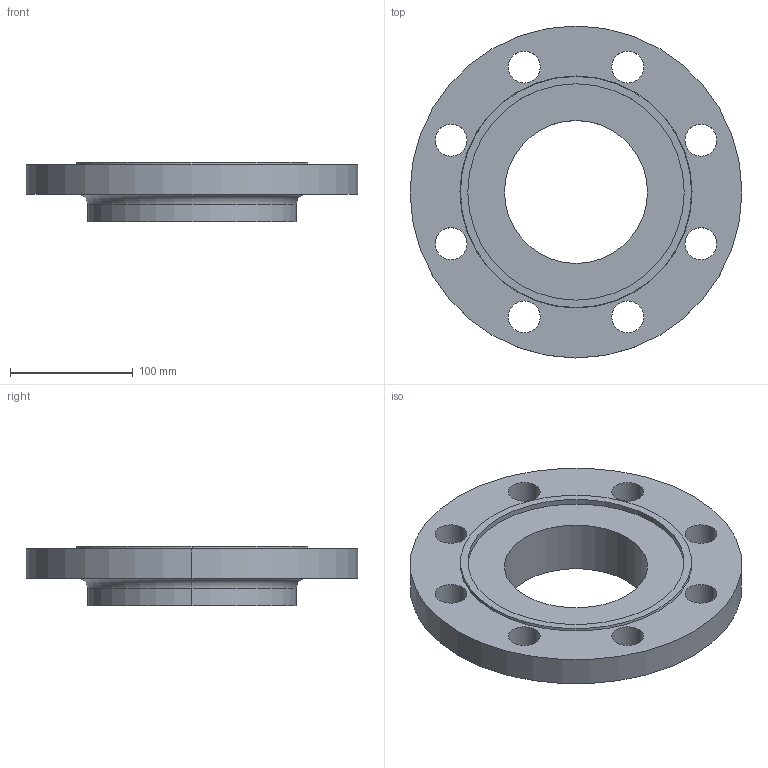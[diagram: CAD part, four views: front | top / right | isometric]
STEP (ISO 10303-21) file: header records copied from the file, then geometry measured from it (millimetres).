
FILE_DESCRIPTION (( 'STEP AP214' ), '1' );
FILE_NAME ('PN40 DN125 Type 13 - Type F Face.STEP', '2019-01-02T02:08:21', ( '' ), ( '' ), 'SwSTEP 2.0', 'SolidWorks 2019', '' );
FILE_SCHEMA (( 'AUTOMOTIVE_DESIGN' ));
Length unit declared in the file: millimetre
Products named in the file (1): PN40 DN125 Type 13 - Type F Face
Bounding box: 270 x 270 x 48 mm (x, y, z)
Volume: 1262867.7 mm3; surface area: 150120.2 mm2
Topology: 1 solids, 1 shells, 33 faces, 82 edges, 54 vertices
Faces by surface type: cylinder 24, plane 5, torus 2, cone 2
Entity records: 1086 total; most frequent: DIRECTION 206, CARTESIAN_POINT 170, ORIENTED_EDGE 164, AXIS2_PLACEMENT_3D 90, EDGE_CURVE 82, CIRCLE 56, EDGE_LOOP 54, VERTEX_POINT 54
